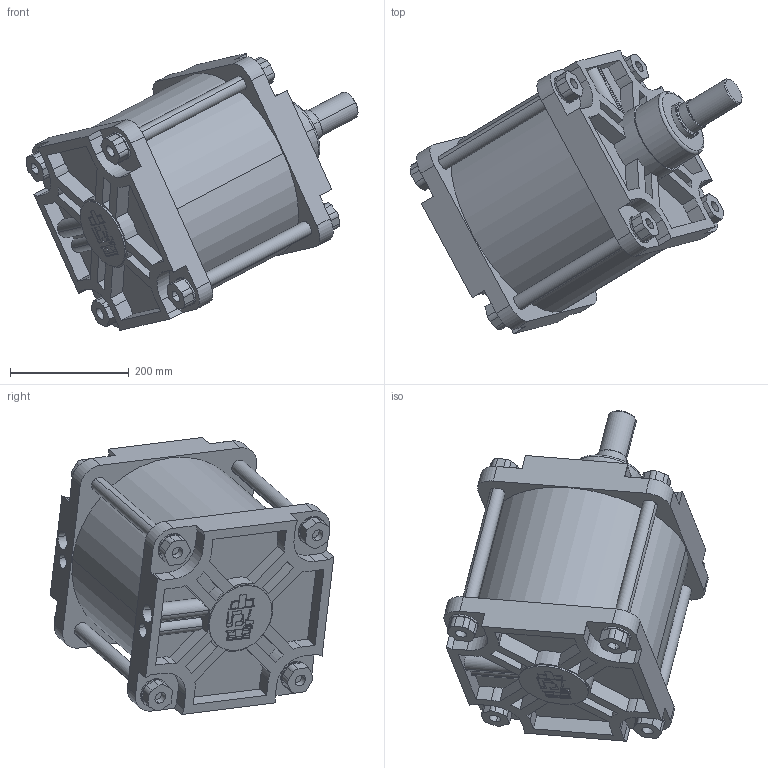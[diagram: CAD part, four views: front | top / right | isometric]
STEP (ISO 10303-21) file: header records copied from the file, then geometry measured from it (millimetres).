
FILE_DESCRIPTION(('CATIA V5 STEP Exchange'),'2;1');
FILE_NAME('D:\stp file for catalog\PNC\320\PNC 320-63-125.stp','2015-10-27T14:00:24+00:00',('none'),('none'),'Version 5-6 Release 2012','CATIA V5 STEP AP203','none');
FILE_SCHEMA(('CONFIG_CONTROL_DESIGN'));
Length unit declared in the file: millimetre
Products named in the file (1): PNC 320-63-125-00
Assembly tree (2 placements, depth 2):
  PNC 320-63-125-00
    #58
    #14831
Bounding box: 559.79 x 478.48 x 467.05 mm (x, y, z)
Volume: 16176970 mm3; surface area: 1532188.4 mm2
Topology: 2 solids, 4 shells, 522 faces, 1393 edges, 921 vertices
Faces by surface type: plane 305, cylinder 169, cone 42, torus 6
Entity records: 15447 total; most frequent: CARTESIAN_POINT 3485, ORIENTED_EDGE 2786, DIRECTION 1853, EDGE_CURVE 1393, VERTEX_POINT 921, VECTOR 878, LINE 878, AXIS2_PLACEMENT_3D 682
